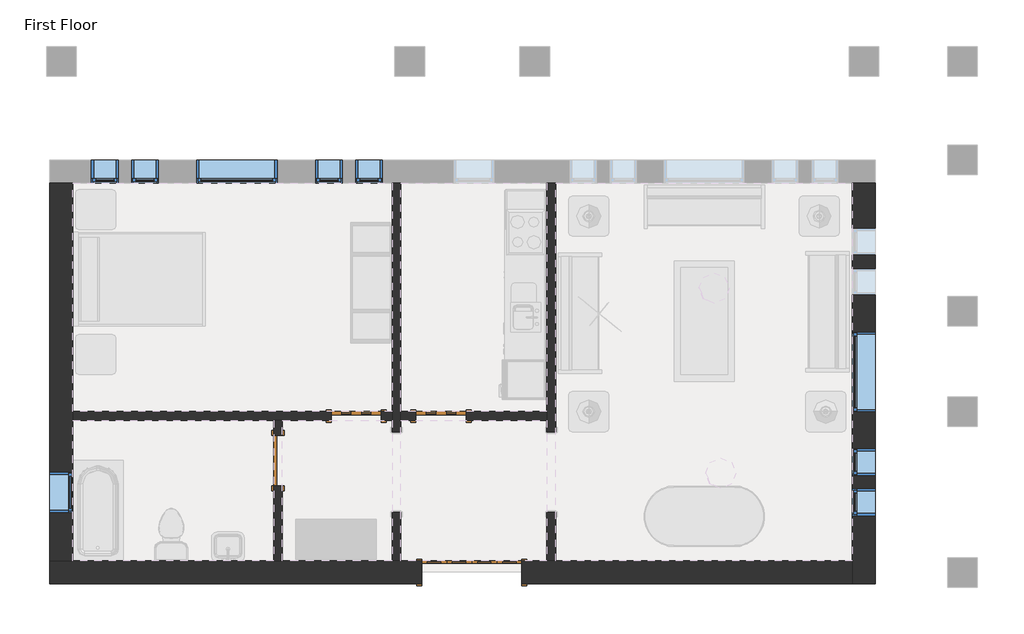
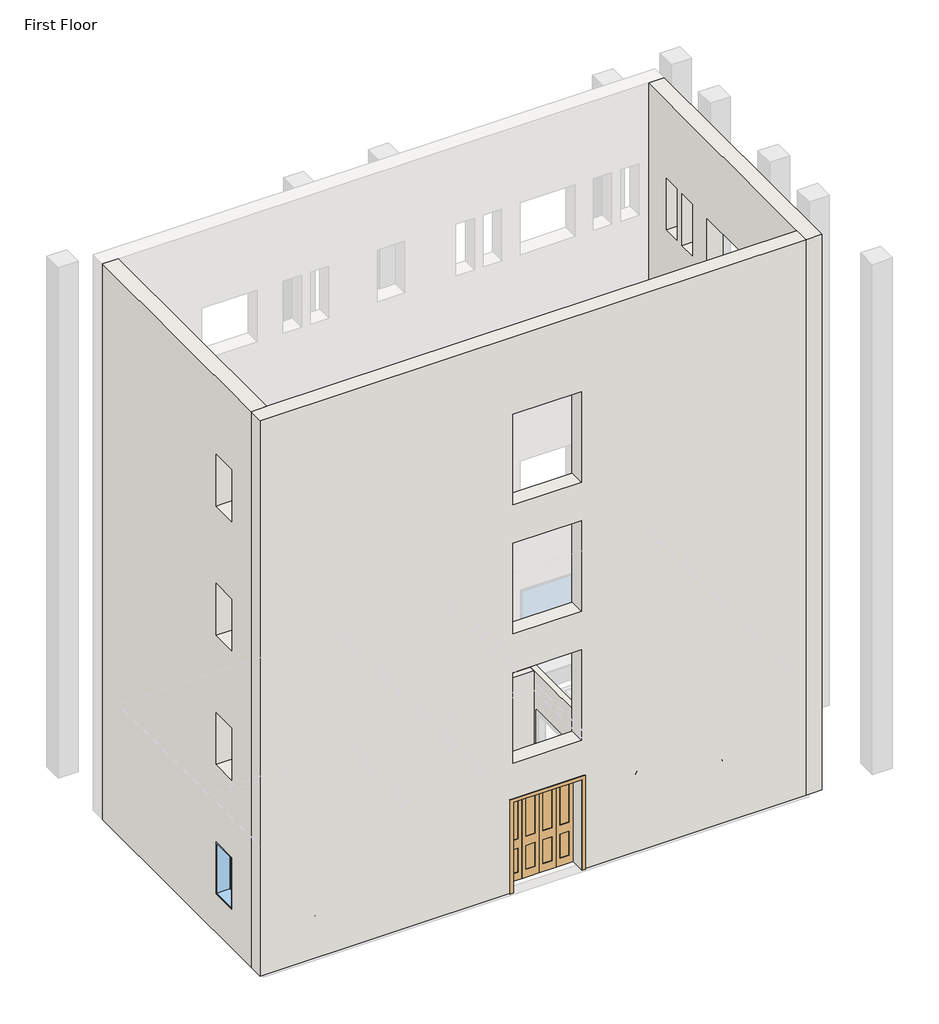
# One storey, part 1 of 3: 9 windows, 7 walls, 4 doors.
"""IFC4 building model written with IfcOpenShell, lengths in millimetres."""

import ifcopenshell
import ifcopenshell.guid

model = None  # the IFC model being written
_history = None  # IfcOwnerHistory: only IFC2X3 demands one
_inside = {}  # id of a spatial element -> (the spatial element, [elements in it])
_under = {}  # id of a project, library or spatial element -> (it, [spatial elements below it])
_declared = {}  # id of a project -> (the project, [libraries it declares])
_typed = {}  # id of a type object -> (the type object, [elements of that type])
_made_of = {}  # id of a material, layer set ... -> (it, [elements and type objects made of it])


def new_model(schema):
    """Start an empty IFC model of exactly this schema.

    Asked for "IFC4X3", IfcOpenShell would pick the latest addendum, in which some entities
    have other attributes; the version numbers below select the first issue.
    IFC2X3 requires an IfcOwnerHistory on every rooted entity: one is made here for all.
    """
    global model, _history
    if schema == "IFC4X3":
        model = ifcopenshell.file(schema_version=(4, 3, 0, 0))
    else:
        model = ifcopenshell.file(schema=schema)
    _inside.clear()
    _under.clear()
    _declared.clear()
    _typed.clear()
    _made_of.clear()
    _history = None
    if model.schema == "IFC2X3":
        org = make("IfcOrganization", Name="unknown")
        user = make(
            "IfcPersonAndOrganization",
            ThePerson=make("IfcPerson", FamilyName="unknown"),
            TheOrganization=org,
        )
        app = make(
            "IfcApplication",
            ApplicationDeveloper=org,
            Version="unknown",
            ApplicationFullName="unknown",
            ApplicationIdentifier="unknown",
        )
        _history = make(
            "IfcOwnerHistory",
            OwningUser=user,
            OwningApplication=app,
            ChangeAction="ADDED",
            CreationDate=0,
        )
    return model


def make(cls, **values):
    """One entity of the class cls with the attributes given. An attribute that is None is left unset."""
    return model.create_entity(
        cls, **{name: value for name, value in values.items() if value is not None}
    )


def rooted(cls, **values):
    """An entity with a GlobalId (a new one), such as an element, a storey or a relation."""
    return make(cls, GlobalId=ifcopenshell.guid.new(), OwnerHistory=_history, **values)


def si_unit(unit_type, name, prefix=None):
    """IfcSIUnit, for example si_unit("LENGTHUNIT", "METRE", prefix="MILLI")."""
    return make("IfcSIUnit", UnitType=unit_type, Prefix=prefix, Name=name)


def assignment(units):
    """IfcUnitAssignment: the units of a project."""
    return None if units is None else make("IfcUnitAssignment", Units=units)


def point(xyz):
    """IfcCartesianPoint."""
    return None if xyz is None else make("IfcCartesianPoint", Coordinates=xyz)


def direction(xyz):
    """IfcDirection."""
    return None if xyz is None else make("IfcDirection", DirectionRatios=xyz)


def frame(location, z_axis=None, x_axis=None):
    """IfcAxis2Placement3D, a coordinate frame: its origin and axes. An axis left out is left unset."""
    return make(
        "IfcAxis2Placement3D",
        Location=point(location),
        Axis=direction(z_axis),
        RefDirection=direction(x_axis),
    )


def frame_2d(location, x_axis=None):
    """IfcAxis2Placement2D, a coordinate frame in the plane: its origin and x axis."""
    return make(
        "IfcAxis2Placement2D", Location=point(location), RefDirection=direction(x_axis)
    )


def origin():
    """The frame at (0, 0, 0) with its axes left unset."""
    return frame((0.0, 0.0, 0.0))


def origin_with_axes():
    """The frame at (0, 0, 0) with the z axis (0, 0, 1) and the x axis (1, 0, 0) written out."""
    return frame((0.0, 0.0, 0.0), z_axis=(0.0, 0.0, 1.0), x_axis=(1.0, 0.0, 0.0))


def place(relative_to, where):
    """IfcLocalPlacement: puts the frame where relative to a parent placement (None: the world)."""
    return make(
        "IfcLocalPlacement", PlacementRelTo=relative_to, RelativePlacement=where
    )


def context(
    kind, dimensions, precision=None, world=None, true_north=None, identifier=None
):
    """IfcGeometricRepresentationContext, for example the 3D "Model" context."""
    return make(
        "IfcGeometricRepresentationContext",
        ContextIdentifier=identifier,
        ContextType=kind,
        CoordinateSpaceDimension=dimensions,
        Precision=precision,
        WorldCoordinateSystem=world,
        TrueNorth=true_north,
    )


def project(units=None, contexts=None):
    """IfcProject with its units and contexts."""
    return rooted(
        "IfcProject",
        Name="project",
        RepresentationContexts=contexts,
        UnitsInContext=assignment(units),
    )


def spatial(cls, under=None, at=None, **own):
    """A site, building, storey or space (cls), placed at a placement, below another one or the project."""
    s = rooted(cls, ObjectPlacement=at, **own)
    if under is not None:
        _under.setdefault(under.id(), (under, []))[1].append(s)
    return s


def polyline(points):
    """IfcPolyline through the points."""
    return make("IfcPolyline", Points=[point(p) for p in points])


def circle_curve(where, radius):
    """IfcCircle in the frame where."""
    return make("IfcCircle", Position=where, Radius=radius)


def trimmed(basis, trim1, trim2, sense, master):
    """IfcTrimmedCurve: the piece of a basis curve between two trims."""
    return make(
        "IfcTrimmedCurve",
        BasisCurve=basis,
        Trim1=trim1,
        Trim2=trim2,
        SenseAgreement=sense,
        MasterRepresentation=master,
    )


def segment(curve, same_sense, transition):
    """IfcCompositeCurveSegment."""
    return make(
        "IfcCompositeCurveSegment",
        Transition=transition,
        SameSense=same_sense,
        ParentCurve=curve,
    )


def composite_curve(segments, self_intersect=None):
    """IfcCompositeCurve: segments joined end to end."""
    return make("IfcCompositeCurve", Segments=segments, SelfIntersect=self_intersect)


def outline(outer, holes=None, kind="AREA"):
    """IfcArbitraryClosedProfileDef: a profile drawn as a closed curve; with holes, ...WithVoids."""
    if holes is None:
        return make("IfcArbitraryClosedProfileDef", ProfileType=kind, OuterCurve=outer)
    return make(
        "IfcArbitraryProfileDefWithVoids",
        ProfileType=kind,
        OuterCurve=outer,
        InnerCurves=holes,
    )


def extrude(swept, where, along, depth):
    """IfcExtrudedAreaSolid: the profile swept, set in the frame where, extruded along a direction by depth."""
    return make(
        "IfcExtrudedAreaSolid",
        SweptArea=swept,
        Position=where,
        ExtrudedDirection=direction(along),
        Depth=depth,
    )


def faces_of(points, faces, orient=None, outer=None):
    """IfcFace entities. A face is a list of loops; a loop is a list of indices into points, from 0.

    orient and outer hold one flag for each loop. By default every Orientation is true, the
    first loop of a face is its IfcFaceOuterBound and the others are IfcFaceBound.
    """
    made = []
    for i, loops in enumerate(faces):
        bounds = []
        for j, loop in enumerate(loops):
            is_outer = j == 0 if outer is None else outer[i][j]
            bounds.append(
                make(
                    "IfcFaceOuterBound" if is_outer else "IfcFaceBound",
                    Bound=make("IfcPolyLoop", Polygon=[points[k] for k in loop]),
                    Orientation=True if orient is None else orient[i][j],
                )
            )
        made.append(make("IfcFace", Bounds=bounds))
    return made


def faceted_brep(points, faces, orient=None, outer=None, voids=None):
    """IfcFacetedBrep: a solid bounded by flat faces; with voids (closed shells), ...WithVoids."""
    shared = [point(p) for p in points]
    hull = make("IfcClosedShell", CfsFaces=faces_of(shared, faces, orient, outer))
    if voids is None:
        return make("IfcFacetedBrep", Outer=hull)
    return make(
        "IfcFacetedBrepWithVoids",
        Outer=hull,
        Voids=[
            make(cls, CfsFaces=faces_of(shared, fs, o, b)) for cls, fs, o, b in voids
        ],
    )


def shape(context_of_items, identifier, shape_type, items):
    """IfcShapeRepresentation: the items that make up one representation, for example the "Body"."""
    return make(
        "IfcShapeRepresentation",
        ContextOfItems=context_of_items,
        RepresentationIdentifier=identifier,
        RepresentationType=shape_type,
        Items=items,
    )


def source(mapping_origin, context_of_items, identifier, shape_type, items):
    """IfcRepresentationMap: a shape defined once, which mapped items show again and again."""
    return make(
        "IfcRepresentationMap",
        MappingOrigin=mapping_origin,
        MappedRepresentation=shape(context_of_items, identifier, shape_type, items),
    )


def transform(
    local_origin,
    x_axis=None,
    y_axis=None,
    z_axis=None,
    scale=None,
    scale2=None,
    scale3=None,
    uniform=True,
):
    """IfcCartesianTransformationOperator3D, or its non-uniform kind. x_axis, y_axis, z_axis: its Axis1, 2, 3."""
    if uniform:
        return make(
            "IfcCartesianTransformationOperator3D",
            Axis1=direction(x_axis),
            Axis2=direction(y_axis),
            LocalOrigin=point(local_origin),
            Scale=scale,
            Axis3=direction(z_axis),
        )
    return make(
        "IfcCartesianTransformationOperator3DnonUniform",
        Axis1=direction(x_axis),
        Axis2=direction(y_axis),
        LocalOrigin=point(local_origin),
        Scale=scale,
        Axis3=direction(z_axis),
        Scale2=scale2,
        Scale3=scale3,
    )


def mapped(mapping_source, mapping_target):
    """IfcMappedItem: shows the shape of a source again, moved by a transform."""
    return make(
        "IfcMappedItem", MappingSource=mapping_source, MappingTarget=mapping_target
    )


def made_of(thing, what):
    """Note that an element or type object is made of a material, layer set ...; save() writes the relation."""
    if what is not None:
        _made_of.setdefault(what.id(), (what, []))[1].append(thing)
    return thing


def element(
    cls,
    number,
    at=None,
    inside=None,
    cuts=None,
    type_object=None,
    material=None,
    context=None,
    identifier="Body",
    shape_type=None,
    held_by="IfcProductDefinitionShape",
    body=None,
    shapes=None,
    **own,
):
    """One element of the class cls, such as IfcWall. Its Tag is "e" and its number.

    at: its placement. inside: the storey or other place that contains it. cuts: it is an
    opening in that element (IfcRelVoidsElement). A single representation is given by context,
    identifier, shape_type and body (its items); several are given by shapes. held_by: the class
    of the entity that holds the representations. save() writes the other relations.
    """
    e = rooted(cls, Tag="e%d" % number, ObjectPlacement=at, **own)
    if body is not None:
        shapes = [shape(context, identifier, shape_type, body)]
    if shapes is not None:
        e.Representation = make(held_by, Representations=shapes)
    if inside is not None:
        _inside.setdefault(inside.id(), (inside, []))[1].append(e)
    if cuts is not None:
        rooted(
            "IfcRelVoidsElement", RelatingBuildingElement=cuts, RelatedOpeningElement=e
        )
    if type_object is not None:
        _typed.setdefault(type_object.id(), (type_object, []))[1].append(e)
    return made_of(e, material)


def aggregate(whole, parts):
    """IfcRelAggregates: a whole, such as a stair, and the parts it consists of."""
    return rooted("IfcRelAggregates", RelatingObject=whole, RelatedObjects=parts)


def save(model, path):
    """Write the relations noted so far, then the file.

    IfcRelAggregates (storeys below a building ...), IfcRelContainedInSpatialStructure (elements
    in a storey), IfcRelDefinesByType, IfcRelAssociatesMaterial and IfcRelDeclares: one each for
    every whole, place, type object, material and project.
    """
    for whole, parts in _under.values():
        aggregate(whole, parts)
    for where, things in _inside.values():
        rooted(
            "IfcRelContainedInSpatialStructure",
            RelatedElements=things,
            RelatingStructure=where,
        )
    for kind, things in _typed.values():
        rooted("IfcRelDefinesByType", RelatedObjects=things, RelatingType=kind)
    for what, things in _made_of.values():
        rooted("IfcRelAssociatesMaterial", RelatedObjects=things, RelatingMaterial=what)
    for by, libraries in _declared.values():
        rooted("IfcRelDeclares", RelatingContext=by, RelatedDefinitions=libraries)
    model.write(path)


def m_bifold_4_panel_1525_x_2134mm_1ddae71f(model_context):
    return source(origin(), model_context, "Body", "SweptSolid", [
        extrude(outline(polyline([(470.15, 162.3), (673.6, 162.3), (673.6, 149.6), (470.15, 149.6), (470.15, 162.3)])), frame((0.0, 0.0, 965.2), z_axis=(0.0, 0.0, 1.0), x_axis=(1.0, 0.0, 0.0)), (0.0, 0.0, 1.0), 1086.25),
        extrude(outline(polyline([(470.15, 162.3), (673.6, 162.3), (673.6, 149.6), (470.15, 149.6), (470.15, 162.3)])), frame((0.0, 0.0, 184.15), z_axis=(0.0, 0.0, 1.0), x_axis=(1.0, 0.0, 0.0)), (0.0, 0.0, 1.0), 565.15),
        extrude(outline(polyline([(88.9, 162.3), (292.35, 162.3), (292.35, 149.6), (88.9, 149.6), (88.9, 162.3)])), frame((0.0, 0.0, 965.2), z_axis=(0.0, 0.0, 1.0), x_axis=(1.0, 0.0, 0.0)), (0.0, 0.0, 1.0), 1086.25),
        extrude(outline(polyline([(88.9, 162.3), (292.35, 162.3), (292.35, 149.6), (88.9, 149.6), (88.9, 162.3)])), frame((0.0, 0.0, 184.15), z_axis=(0.0, 0.0, 1.0), x_axis=(1.0, 0.0, 0.0)), (0.0, 0.0, 1.0), 565.15),
        extrude(outline(polyline([(-292.35, 162.3), (-88.9, 162.3), (-88.9, 149.6), (-292.35, 149.6), (-292.35, 162.3)])), frame((0.0, 0.0, 184.15), z_axis=(0.0, 0.0, 1.0), x_axis=(1.0, 0.0, 0.0)), (0.0, 0.0, 1.0), 565.15),
        extrude(outline(polyline([(-292.35, 162.3), (-88.9, 162.3), (-88.9, 149.6), (-292.35, 149.6), (-292.35, 162.3)])), frame((0.0, 0.0, 965.2), z_axis=(0.0, 0.0, 1.0), x_axis=(1.0, 0.0, 0.0)), (0.0, 0.0, 1.0), 1086.25),
        extrude(outline(polyline([(-673.6, 162.3), (-470.15, 162.3), (-470.15, 149.6), (-673.6, 149.6), (-673.6, 162.3)])), frame((0.0, 0.0, 965.2), z_axis=(0.0, 0.0, 1.0), x_axis=(1.0, 0.0, 0.0)), (0.0, 0.0, 1.0), 1086.25),
        extrude(outline(polyline([(-673.6, 162.3), (-470.15, 162.3), (-470.15, 149.6), (-673.6, 149.6), (-673.6, 162.3)])), frame((0.0, 0.0, 184.15), z_axis=(0.0, 0.0, 1.0), x_axis=(1.0, 0.0, 0.0)), (0.0, 0.0, 1.0), 565.15),
        extrude(outline(polyline([(0.0, 838.5), (2210.0, 838.5), (2210.0, -838.5), (0.0, -838.5), (0.0, -762.5), (2134.0, -762.5), (2134.0, 762.5), (0.0, 762.5), (0.0, 838.5)])), frame((0.0, -200.4, 0.0), z_axis=(0.0, 1.0, 0.0), x_axis=(0.0, 0.0, 1.0)), (0.0, 0.0, 1.0), 25.4),
        extrude(outline(polyline([(0.0, 838.5), (2210.0, 838.5), (2210.0, -838.5), (0.0, -838.5), (0.0, -762.5), (2134.0, -762.5), (2134.0, 762.5), (0.0, 762.5), (0.0, 838.5)])), frame((0.0, 175.0, 0.0), z_axis=(0.0, 1.0, 0.0), x_axis=(0.0, 0.0, 1.0)), (0.0, 0.0, 1.0), 25.4),
        extrude(outline(polyline([(0.0, -762.5), (0.0, -381.25), (2134.0, -381.25), (2134.0, -762.5), (0.0, -762.5)]), holes=[polyline([(2051.45, -673.6), (2051.45, -470.15), (965.2, -470.15), (965.2, -673.6), (2051.45, -673.6)]), polyline([(749.3, -673.6), (749.3, -470.15), (184.15, -470.15), (184.15, -673.6), (749.3, -673.6)])]), frame((0.0, 136.9, 0.0), z_axis=(0.0, 1.0, 0.0), x_axis=(0.0, 0.0, 1.0)), (0.0, 0.0, 1.0), 38.1),
        extrude(outline(polyline([(0.0, -381.25), (0.0, 0.0), (2134.0, 0.0), (2134.0, -381.25), (0.0, -381.25)]), holes=[polyline([(2051.45, -292.35), (2051.45, -88.9), (965.2, -88.9), (965.2, -292.35), (2051.45, -292.35)]), polyline([(749.3, -292.35), (749.3, -88.9), (184.15, -88.9), (184.15, -292.35), (749.3, -292.35)])]), frame((0.0, 136.9, 0.0), z_axis=(0.0, 1.0, 0.0), x_axis=(0.0, 0.0, 1.0)), (0.0, 0.0, 1.0), 38.1),
        extrude(outline(polyline([(0.0, 0.0), (0.0, 381.25), (2134.0, 381.25), (2134.0, 0.0), (0.0, 0.0)]), holes=[polyline([(2051.45, 88.9), (2051.45, 292.35), (965.2, 292.35), (965.2, 88.9), (2051.45, 88.9)]), polyline([(749.3, 88.9), (749.3, 292.35), (184.15, 292.35), (184.15, 88.9), (749.3, 88.9)])]), frame((0.0, 136.9, 0.0), z_axis=(0.0, 1.0, 0.0), x_axis=(0.0, 0.0, 1.0)), (0.0, 0.0, 1.0), 38.1),
        extrude(outline(polyline([(0.0, 381.25), (0.0, 762.5), (2134.0, 762.5), (2134.0, 381.25), (0.0, 381.25)]), holes=[polyline([(2051.45, 470.15), (2051.45, 673.6), (965.2, 673.6), (965.2, 470.15), (2051.45, 470.15)]), polyline([(749.3, 470.15), (749.3, 673.6), (184.15, 673.6), (184.15, 470.15), (749.3, 470.15)])]), frame((0.0, 136.9, 0.0), z_axis=(0.0, 1.0, 0.0), x_axis=(0.0, 0.0, 1.0)), (0.0, 0.0, 1.0), 38.1),
    ])


def m_single_decorative_2_0762_x_2134mm_0d0af7cb(model_context):
    return source(origin(), model_context, "Body", "SweptSolid", [
        extrude(outline(polyline([(2134.0, 381.0), (2134.0, -381.0), (0.0, -381.0), (0.0, 381.0), (2134.0, 381.0)]), holes=[polyline([(1219.3, -76.2), (254.0, -76.2), (254.0, -228.6), (1219.3, -228.6), (1219.3, -76.2)]), polyline([(1219.3, 228.6), (254.0, 228.6), (254.0, 76.2), (1219.3, 76.2), (1219.3, 228.6)]), polyline([(1371.7, -76.2), (1371.7, -228.6), (1574.9, -228.6), (1574.9, -76.2), (1371.7, -76.2)]), polyline([(1574.9, 76.2), (1574.9, 228.6), (1371.7, 228.6), (1371.7, 76.2), (1574.9, 76.2)]), composite_curve([segment(polyline([(1727.3, 228.6), (1727.3, -228.6)]), True, "CONTINUOUS"), segment(trimmed(circle_curve(frame_2d((1727.3, 0.0)), 228.6), [point((1727.3, -228.6))], [point((1727.3, 228.6))], True, "CARTESIAN"), True, "CONTINUOUS")], self_intersect=False)]), frame((0.0, -67.75, 0.0), z_axis=(0.0, 1.0, 0.0), x_axis=(0.0, 0.0, 1.0)), (0.0, 0.0, 1.0), 50.0),
        extrude(outline(polyline([(0.0, 381.0), (0.0, 457.0), (2210.0, 457.0), (2210.0, -457.0), (0.0, -457.0), (0.0, -381.0), (2134.0, -381.0), (2134.0, 381.0), (0.0, 381.0)])), frame((0.0, 67.75, 0.0), z_axis=(0.0, 1.0, 0.0), x_axis=(0.0, 0.0, 1.0)), (0.0, 0.0, 1.0), 25.0),
        extrude(outline(polyline([(2210.0, -457.0), (0.0, -457.0), (0.0, -381.0), (2134.0, -381.0), (2134.0, 381.0), (0.0, 381.0), (0.0, 457.0), (2210.0, 457.0), (2210.0, -457.0)])), frame((0.0, -92.75, 0.0), z_axis=(0.0, 1.0, 0.0), x_axis=(0.0, 0.0, 1.0)), (0.0, 0.0, 1.0), 25.0),
        extrude(outline(composite_curve([segment(trimmed(circle_curve(frame_2d((1727.3, 0.0)), 228.6), [point((1727.3, 228.6))], [point((1727.3, -228.6))], False, "CARTESIAN"), True, "CONTINUOUS"), segment(polyline([(1727.3, -228.6), (1727.3, 228.6)]), True, "CONTINUOUS")], self_intersect=False)), frame((0.0, -51.0833333, 0.0), z_axis=(0.0, 1.0, 0.0), x_axis=(0.0, 0.0, 1.0)), (0.0, 0.0, 1.0), 16.6666667),
        extrude(outline(polyline([(-228.6, -51.0833333), (-228.6, -34.4166667), (-76.2, -34.4166667), (-76.2, -51.0833333), (-228.6, -51.0833333)])), frame((0.0, 0.0, 254.0), z_axis=(0.0, 0.0, 1.0), x_axis=(1.0, 0.0, 0.0)), (0.0, 0.0, 1.0), 965.3),
        extrude(outline(polyline([(76.2, -51.0833333), (76.2, -34.4166667), (228.6, -34.4166667), (228.6, -51.0833333), (76.2, -51.0833333)])), frame((0.0, 0.0, 254.0), z_axis=(0.0, 0.0, 1.0), x_axis=(1.0, 0.0, 0.0)), (0.0, 0.0, 1.0), 965.3),
        extrude(outline(polyline([(76.2, -51.0833333), (76.2, -34.4166667), (228.6, -34.4166667), (228.6, -51.0833333), (76.2, -51.0833333)])), frame((0.0, 0.0, 1371.7), z_axis=(0.0, 0.0, 1.0), x_axis=(1.0, 0.0, 0.0)), (0.0, 0.0, 1.0), 203.2),
        extrude(outline(polyline([(-228.6, -51.0833333), (-228.6, -34.4166667), (-76.2, -34.4166667), (-76.2, -51.0833333), (-228.6, -51.0833333)])), frame((0.0, 0.0, 1371.7), z_axis=(0.0, 0.0, 1.0), x_axis=(1.0, 0.0, 0.0)), (0.0, 0.0, 1.0), 203.2),
    ])


def m_single_decorative_2_0762_x_2134mm_2fe67c8e(model_context):
    return source(origin(), model_context, "Body", "SweptSolid", [
        extrude(outline(polyline([(2134.0, 381.0), (2134.0, -381.0), (0.0, -381.0), (0.0, 381.0), (2134.0, 381.0)]), holes=[polyline([(1219.3, -76.2), (254.0, -76.2), (254.0, -228.6), (1219.3, -228.6), (1219.3, -76.2)]), polyline([(1219.3, 228.6), (254.0, 228.6), (254.0, 76.2), (1219.3, 76.2), (1219.3, 228.6)]), polyline([(1371.7, -76.2), (1371.7, -228.6), (1574.9, -228.6), (1574.9, -76.2), (1371.7, -76.2)]), polyline([(1574.9, 76.2), (1574.9, 228.6), (1371.7, 228.6), (1371.7, 76.2), (1574.9, 76.2)]), composite_curve([segment(polyline([(1727.3, 228.6), (1727.3, -228.6)]), True, "CONTINUOUS"), segment(trimmed(circle_curve(frame_2d((1727.3, 0.0)), 228.6), [point((1727.3, -228.6))], [point((1727.3, 228.6))], True, "CARTESIAN"), True, "CONTINUOUS")], self_intersect=False)]), frame((0.0, 17.75, 0.0), z_axis=(0.0, 1.0, 0.0), x_axis=(0.0, 0.0, 1.0)), (0.0, 0.0, 1.0), 50.0),
        extrude(outline(polyline([(0.0, 381.0), (0.0, 457.0), (2210.0, 457.0), (2210.0, -457.0), (0.0, -457.0), (0.0, -381.0), (2134.0, -381.0), (2134.0, 381.0), (0.0, 381.0)])), frame((0.0, -92.75, 0.0), z_axis=(0.0, 1.0, 0.0), x_axis=(0.0, 0.0, 1.0)), (0.0, 0.0, 1.0), 25.0),
        extrude(outline(polyline([(2210.0, -457.0), (0.0, -457.0), (0.0, -381.0), (2134.0, -381.0), (2134.0, 381.0), (0.0, 381.0), (0.0, 457.0), (2210.0, 457.0), (2210.0, -457.0)])), frame((0.0, 67.75, 0.0), z_axis=(0.0, 1.0, 0.0), x_axis=(0.0, 0.0, 1.0)), (0.0, 0.0, 1.0), 25.0),
        extrude(outline(composite_curve([segment(trimmed(circle_curve(frame_2d((1727.3, 0.0)), 228.6), [point((1727.3, 228.6))], [point((1727.3, -228.6))], False, "CARTESIAN"), True, "CONTINUOUS"), segment(polyline([(1727.3, -228.6), (1727.3, 228.6)]), True, "CONTINUOUS")], self_intersect=False)), frame((0.0, 34.4166667, 0.0), z_axis=(0.0, 1.0, 0.0), x_axis=(0.0, 0.0, 1.0)), (0.0, 0.0, 1.0), 16.6666667),
        extrude(outline(polyline([(-228.6, 51.0833333), (-76.2, 51.0833333), (-76.2, 34.4166667), (-228.6, 34.4166667), (-228.6, 51.0833333)])), frame((0.0, 0.0, 254.0), z_axis=(0.0, 0.0, 1.0), x_axis=(1.0, 0.0, 0.0)), (0.0, 0.0, 1.0), 965.3),
        extrude(outline(polyline([(76.2, 51.0833333), (228.6, 51.0833333), (228.6, 34.4166667), (76.2, 34.4166667), (76.2, 51.0833333)])), frame((0.0, 0.0, 254.0), z_axis=(0.0, 0.0, 1.0), x_axis=(1.0, 0.0, 0.0)), (0.0, 0.0, 1.0), 965.3),
        extrude(outline(polyline([(76.2, 51.0833333), (228.6, 51.0833333), (228.6, 34.4166667), (76.2, 34.4166667), (76.2, 51.0833333)])), frame((0.0, 0.0, 1371.7), z_axis=(0.0, 0.0, 1.0), x_axis=(1.0, 0.0, 0.0)), (0.0, 0.0, 1.0), 203.2),
        extrude(outline(polyline([(-228.6, 51.0833333), (-76.2, 51.0833333), (-76.2, 34.4166667), (-228.6, 34.4166667), (-228.6, 51.0833333)])), frame((0.0, 0.0, 1371.7), z_axis=(0.0, 0.0, 1.0), x_axis=(1.0, 0.0, 0.0)), (0.0, 0.0, 1.0), 203.2),
    ])


def m_single_flush_0762_x_2134mm_0d89e411(model_context):
    return source(origin(), model_context, "Body", "SweptSolid", [
        extrude(outline(polyline([(2210.0, -457.0), (0.0, -457.0), (0.0, -381.0), (2134.0, -381.0), (2134.0, 381.0), (0.0, 381.0), (0.0, 457.0), (2210.0, 457.0), (2210.0, -457.0)])), frame((0.0, 67.75, 0.0), z_axis=(0.0, 1.0, 0.0), x_axis=(0.0, 0.0, 1.0)), (0.0, 0.0, 1.0), 25.0),
        extrude(outline(polyline([(2210.0, 457.0), (2210.0, -457.0), (0.0, -457.0), (0.0, -381.0), (2134.0, -381.0), (2134.0, 381.0), (0.0, 381.0), (0.0, 457.0), (2210.0, 457.0)])), frame((0.0, -92.75, 0.0), z_axis=(0.0, 1.0, 0.0), x_axis=(0.0, 0.0, 1.0)), (0.0, 0.0, 1.0), 25.0),
        extrude(outline(polyline([(381.0, 16.75), (-381.0, 16.75), (-381.0, 67.75), (381.0, 67.75), (381.0, 16.75)])), origin_with_axes(), (0.0, 0.0, 1.0), 2134.0),
    ])


def m_fixed_0406_x_1220mm_57fee329(model_context):
    return source(origin(), model_context, "Body", "SweptSolid", [
        extrude(outline(polyline([(-140.0, 153.0), (140.0, 153.0), (140.0, 141.0), (-140.0, 141.0), (-140.0, 153.0)])), frame((0.0, 0.0, 978.0), z_axis=(0.0, 0.0, 1.0), x_axis=(1.0, 0.0, 0.0)), (0.0, 0.0, 1.0), 1094.0),
        extrude(outline(polyline([(2116.0, -184.0), (934.0, -184.0), (934.0, 184.0), (2116.0, 184.0), (2116.0, -184.0)]), holes=[polyline([(2072.0, -140.0), (2072.0, 140.0), (978.0, 140.0), (978.0, -140.0), (2072.0, -140.0)])]), frame((0.0, 125.0, 0.0), z_axis=(0.0, 1.0, 0.0), x_axis=(0.0, 0.0, 1.0)), (0.0, 0.0, 1.0), 44.0),
        extrude(outline(polyline([(2135.0, -203.0), (915.0, -203.0), (915.0, 203.0), (2135.0, 203.0), (2135.0, -203.0)]), holes=[polyline([(2116.0, -184.0), (2116.0, 184.0), (934.0, 184.0), (934.0, -184.0), (2116.0, -184.0)])]), frame((0.0, 125.0, 0.0), z_axis=(0.0, 1.0, 0.0), x_axis=(0.0, 0.0, 1.0)), (0.0, 0.0, 1.0), 63.0),
        extrude(outline(polyline([(2135.0, -203.0), (915.0, -203.0), (915.0, 203.0), (2135.0, 203.0), (2135.0, -203.0)]), holes=[polyline([(2103.0, -171.0), (2103.0, 171.0), (947.0, 171.0), (947.0, -171.0), (2103.0, -171.0)])]), frame((0.0, -162.0, 0.0), z_axis=(0.0, 1.0, 0.0), x_axis=(0.0, 0.0, 1.0)), (0.0, 0.0, 1.0), 287.0),
    ])


def m_fixed_0406_x_1220mm_85c28f40(model_context):
    return source(origin(), model_context, "Body", "SweptSolid", [
        extrude(outline(polyline([(-140.0, -153.0), (-140.0, -141.0), (140.0, -141.0), (140.0, -153.0), (-140.0, -153.0)])), frame((0.0, 0.0, 978.0), z_axis=(0.0, 0.0, 1.0), x_axis=(1.0, 0.0, 0.0)), (0.0, 0.0, 1.0), 1094.0),
        extrude(outline(polyline([(2116.0, -184.0), (934.0, -184.0), (934.0, 184.0), (2116.0, 184.0), (2116.0, -184.0)]), holes=[polyline([(2072.0, -140.0), (2072.0, 140.0), (978.0, 140.0), (978.0, -140.0), (2072.0, -140.0)])]), frame((0.0, -169.0, 0.0), z_axis=(0.0, 1.0, 0.0), x_axis=(0.0, 0.0, 1.0)), (0.0, 0.0, 1.0), 44.0),
        extrude(outline(polyline([(2135.0, -203.0), (915.0, -203.0), (915.0, 203.0), (2135.0, 203.0), (2135.0, -203.0)]), holes=[polyline([(2116.0, -184.0), (2116.0, 184.0), (934.0, 184.0), (934.0, -184.0), (2116.0, -184.0)])]), frame((0.0, -188.0, 0.0), z_axis=(0.0, 1.0, 0.0), x_axis=(0.0, 0.0, 1.0)), (0.0, 0.0, 1.0), 63.0),
        extrude(outline(polyline([(2135.0, -203.0), (915.0, -203.0), (915.0, 203.0), (2135.0, 203.0), (2135.0, -203.0)]), holes=[polyline([(2103.0, -171.0), (2103.0, 171.0), (947.0, 171.0), (947.0, -171.0), (2103.0, -171.0)])]), frame((0.0, -125.0, 0.0), z_axis=(0.0, 1.0, 0.0), x_axis=(0.0, 0.0, 1.0)), (0.0, 0.0, 1.0), 287.0),
    ])


def m_fixed_0610_x_1220mm_2c28ef1d(model_context):
    return source(origin(), model_context, "Body", "SweptSolid", [
        extrude(outline(polyline([(-242.0, 153.0), (242.0, 153.0), (242.0, 141.0), (-242.0, 141.0), (-242.0, 153.0)])), frame((0.0, 0.0, 978.0), z_axis=(0.0, 0.0, 1.0), x_axis=(1.0, 0.0, 0.0)), (0.0, 0.0, 1.0), 1094.0),
        extrude(outline(polyline([(2116.0, -286.0), (934.0, -286.0), (934.0, 286.0), (2116.0, 286.0), (2116.0, -286.0)]), holes=[polyline([(2072.0, -242.0), (2072.0, 242.0), (978.0, 242.0), (978.0, -242.0), (2072.0, -242.0)])]), frame((0.0, 125.0, 0.0), z_axis=(0.0, 1.0, 0.0), x_axis=(0.0, 0.0, 1.0)), (0.0, 0.0, 1.0), 44.0),
        extrude(outline(polyline([(2135.0, -305.0), (915.0, -305.0), (915.0, 305.0), (2135.0, 305.0), (2135.0, -305.0)]), holes=[polyline([(2116.0, -286.0), (2116.0, 286.0), (934.0, 286.0), (934.0, -286.0), (2116.0, -286.0)])]), frame((0.0, 125.0, 0.0), z_axis=(0.0, 1.0, 0.0), x_axis=(0.0, 0.0, 1.0)), (0.0, 0.0, 1.0), 63.0),
        extrude(outline(polyline([(2135.0, -305.0), (915.0, -305.0), (915.0, 305.0), (2135.0, 305.0), (2135.0, -305.0)]), holes=[polyline([(2103.0, -273.0), (2103.0, 273.0), (947.0, 273.0), (947.0, -273.0), (2103.0, -273.0)])]), frame((0.0, -162.0, 0.0), z_axis=(0.0, 1.0, 0.0), x_axis=(0.0, 0.0, 1.0)), (0.0, 0.0, 1.0), 287.0),
    ])


def m_fixed_1220_x_1220mm_e08ff7af(model_context):
    return source(origin(), model_context, "Body", "SweptSolid", [
        extrude(outline(polyline([(-547.0, 153.0), (547.0, 153.0), (547.0, 141.0), (-547.0, 141.0), (-547.0, 153.0)])), frame((0.0, 0.0, 978.0), z_axis=(0.0, 0.0, 1.0), x_axis=(1.0, 0.0, 0.0)), (0.0, 0.0, 1.0), 1094.0),
        extrude(outline(polyline([(2116.0, -591.0), (934.0, -591.0), (934.0, 591.0), (2116.0, 591.0), (2116.0, -591.0)]), holes=[polyline([(2072.0, -547.0), (2072.0, 547.0), (978.0, 547.0), (978.0, -547.0), (2072.0, -547.0)])]), frame((0.0, 125.0, 0.0), z_axis=(0.0, 1.0, 0.0), x_axis=(0.0, 0.0, 1.0)), (0.0, 0.0, 1.0), 44.0),
        extrude(outline(polyline([(2135.0, -610.0), (915.0, -610.0), (915.0, 610.0), (2135.0, 610.0), (2135.0, -610.0)]), holes=[polyline([(2116.0, -591.0), (2116.0, 591.0), (934.0, 591.0), (934.0, -591.0), (2116.0, -591.0)])]), frame((0.0, 125.0, 0.0), z_axis=(0.0, 1.0, 0.0), x_axis=(0.0, 0.0, 1.0)), (0.0, 0.0, 1.0), 63.0),
        extrude(outline(polyline([(2135.0, -610.0), (915.0, -610.0), (915.0, 610.0), (2135.0, 610.0), (2135.0, -610.0)]), holes=[polyline([(2103.0, -578.0), (2103.0, 578.0), (947.0, 578.0), (947.0, -578.0), (2103.0, -578.0)])]), frame((0.0, -162.0, 0.0), z_axis=(0.0, 1.0, 0.0), x_axis=(0.0, 0.0, 1.0)), (0.0, 0.0, 1.0), 287.0),
    ])


model = new_model("IFC4")

# Units and contexts
model_context = context("Model", 3, world=origin())
ifc_project = project(units=[si_unit("LENGTHUNIT", "METRE", prefix="MILLI")], contexts=[model_context])

# Site, building, storey
site = spatial("IfcSite", under=ifc_project)
building = spatial("IfcBuilding", under=site)
storey = spatial("IfcBuildingStorey", under=building, Name="First Floor", Elevation=0.0)

# Doors
placement = place(None, origin())
m_bifold_4_panel_1525_x_2134mm_shape = m_bifold_4_panel_1525_x_2134mm_1ddae71f(model_context)
element("IfcDoor", 1, ObjectType="M_Bifold-4 Panel : 1525 x 2134mm", at=placement, inside=storey, context=model_context, shape_type="MappedRepresentation", body=[
    mapped(m_bifold_4_panel_1525_x_2134mm_shape, transform((-8876.0916203, -3514.8811614, 0.0), x_axis=(1.0, 0.0, 0.0), y_axis=(0.0, 1.0, 0.0), z_axis=(0.0, 0.0, 1.0))),
])
m_single_decorative_2_0762_x_2134mm_shape = m_single_decorative_2_0762_x_2134mm_0d0af7cb(model_context)
element("IfcDoor", 2, ObjectType="M_Single-Decorative 2 : 0762 x 2134mm", at=placement, inside=storey, context=model_context, shape_type="MappedRepresentation", body=[
    mapped(m_single_decorative_2_0762_x_2134mm_shape, transform((-9342.3416203, -1138.1311614, 0.0), x_axis=(-1.0, 0.0, 0.0), y_axis=(0.0, -1.0, 0.0), z_axis=(0.0, 0.0, 1.0))),
])
m_single_decorative_2_0762_x_2134mm_2_shape = m_single_decorative_2_0762_x_2134mm_2fe67c8e(model_context)
element("IfcDoor", 3, ObjectType="M_Single-Decorative 2 : 0762 x 2134mm", at=placement, inside=storey, context=model_context, shape_type="MappedRepresentation", body=[
    mapped(m_single_decorative_2_0762_x_2134mm_2_shape, transform((-10629.0916203, -1138.1311614, 0.0), x_axis=(1.0, 0.0, 0.0), y_axis=(0.0, 1.0, 0.0), z_axis=(0.0, 0.0, 1.0))),
])
m_single_flush_0762_x_2134mm_shape = m_single_flush_0762_x_2134mm_0d89e411(model_context)
element("IfcDoor", 4, ObjectType="M_Single-Flush : 0762 x 2134mm", at=placement, inside=storey, context=model_context, shape_type="MappedRepresentation", body=[
    mapped(m_single_flush_0762_x_2134mm_shape, transform((-11819.5916203, -1815.8811614, 0.0), x_axis=(0.0, 1.0, 0.0), y_axis=(-1.0, 0.0, 0.0), z_axis=(0.0, 0.0, 1.0))),
])

# Walls
element("IfcWall", 5, ObjectType="Exterior - Brick on Mtl. Stud", at=placement, inside=storey, context=model_context, shape_type="Brep", body=[
    faceted_brep([(-3093.3416203, 2406.1188386, 0.0), (-3093.3416203, -3339.8811614, 0.0), (-3093.3416203, -3504.8811614, 0.0), (-3093.3416203, -3689.8811614, 0.0), (-3093.3416203, -3689.8811614, 13107.0), (-3093.3416203, -3339.8811614, 13107.0), (-3093.3416203, 2406.1188386, 13107.0), (-3093.3416203, -1076.8811614, 915.0), (-3093.3416203, 143.1188386, 915.0), (-3093.3416203, 143.1188386, 2135.0), (-3093.3416203, -1076.8811614, 2135.0), (-3093.3416203, 701.1188386, 915.0), (-3093.3416203, 1107.1188386, 915.0), (-3093.3416203, 1107.1188386, 2135.0), (-3093.3416203, 701.1188386, 2135.0), (-3093.3416203, 1311.1188386, 915.0), (-3093.3416203, 1717.1188386, 915.0), (-3093.3416203, 1717.1188386, 2135.0), (-3093.3416203, 1311.1188386, 2135.0), (-3093.3416203, -1634.8811614, 915.0), (-3093.3416203, -1634.8811614, 2135.0), (-3093.3416203, -2040.8811614, 2135.0), (-3093.3416203, -2040.8811614, 915.0), (-3093.3416203, -2244.8811614, 915.0), (-3093.3416203, -2244.8811614, 2135.0), (-3093.3416203, -2650.8811614, 2135.0), (-3093.3416203, -2650.8811614, 915.0), (-3093.3416203, -1634.8811614, 10059.0), (-3093.3416203, -1634.8811614, 11279.0), (-3093.3416203, -2040.8811614, 11279.0), (-3093.3416203, -2040.8811614, 10059.0), (-3093.3416203, -2244.8811614, 10059.0), (-3093.3416203, -2244.8811614, 11279.0), (-3093.3416203, -2650.8811614, 11279.0), (-3093.3416203, -2650.8811614, 10059.0), (-3093.3416203, 701.1188386, 10059.0), (-3093.3416203, 1107.1188386, 10059.0), (-3093.3416203, 1107.1188386, 11279.0), (-3093.3416203, 701.1188386, 11279.0), (-3093.3416203, 1311.1188386, 10059.0), (-3093.3416203, 1717.1188386, 10059.0), (-3093.3416203, 1717.1188386, 11279.0), (-3093.3416203, 1311.1188386, 11279.0), (-3093.3416203, -1076.8811614, 10059.0), (-3093.3416203, 143.1188386, 10059.0), (-3093.3416203, 143.1188386, 11279.0), (-3093.3416203, -1076.8811614, 11279.0), (-3093.3416203, -1634.8811614, 3963.0), (-3093.3416203, -1634.8811614, 5183.0), (-3093.3416203, -2040.8811614, 5183.0), (-3093.3416203, -2040.8811614, 3963.0), (-3093.3416203, -2244.8811614, 3963.0), (-3093.3416203, -2244.8811614, 5183.0), (-3093.3416203, -2650.8811614, 5183.0), (-3093.3416203, -2650.8811614, 3963.0), (-3093.3416203, 701.1188386, 3963.0), (-3093.3416203, 1107.1188386, 3963.0), (-3093.3416203, 1107.1188386, 5183.0), (-3093.3416203, 701.1188386, 5183.0), (-3093.3416203, 1311.1188386, 3963.0), (-3093.3416203, 1717.1188386, 3963.0), (-3093.3416203, 1717.1188386, 5183.0), (-3093.3416203, 1311.1188386, 5183.0), (-3093.3416203, -1076.8811614, 3963.0), (-3093.3416203, 143.1188386, 3963.0), (-3093.3416203, 143.1188386, 5183.0), (-3093.3416203, -1076.8811614, 5183.0), (-3093.3416203, -1634.8811614, 7011.0), (-3093.3416203, -1634.8811614, 8231.0), (-3093.3416203, -2040.8811614, 8231.0), (-3093.3416203, -2040.8811614, 7011.0), (-3093.3416203, -2244.8811614, 7011.0), (-3093.3416203, -2244.8811614, 8231.0), (-3093.3416203, -2650.8811614, 8231.0), (-3093.3416203, -2650.8811614, 7011.0), (-3093.3416203, 701.1188386, 7011.0), (-3093.3416203, 1107.1188386, 7011.0), (-3093.3416203, 1107.1188386, 8231.0), (-3093.3416203, 701.1188386, 8231.0), (-3093.3416203, 1311.1188386, 7011.0), (-3093.3416203, 1717.1188386, 7011.0), (-3093.3416203, 1717.1188386, 8231.0), (-3093.3416203, 1311.1188386, 8231.0), (-3093.3416203, -1076.8811614, 7011.0), (-3093.3416203, 143.1188386, 7011.0), (-3093.3416203, 143.1188386, 8231.0), (-3093.3416203, -1076.8811614, 8231.0), (-2743.3416203, 2406.1188386, 0.0), (-2743.3416203, 2406.1188386, 13107.0), (-2743.3416203, -3689.8811614, 13107.0), (-2743.3416203, -3689.8811614, 0.0), (-2743.3416203, -3504.8811614, 0.0), (-2743.3416203, -1076.8811614, 915.0), (-2743.3416203, -1076.8811614, 2135.0), (-2743.3416203, 143.1188386, 2135.0), (-2743.3416203, 143.1188386, 915.0), (-2743.3416203, 701.1188386, 915.0), (-2743.3416203, 701.1188386, 2135.0), (-2743.3416203, 1107.1188386, 2135.0), (-2743.3416203, 1107.1188386, 915.0), (-2743.3416203, 1311.1188386, 915.0), (-2743.3416203, 1311.1188386, 2135.0), (-2743.3416203, 1717.1188386, 2135.0), (-2743.3416203, 1717.1188386, 915.0), (-2743.3416203, -1634.8811614, 915.0), (-2743.3416203, -2040.8811614, 915.0), (-2743.3416203, -2040.8811614, 2135.0), (-2743.3416203, -1634.8811614, 2135.0), (-2743.3416203, -2244.8811614, 915.0), (-2743.3416203, -2650.8811614, 915.0), (-2743.3416203, -2650.8811614, 2135.0), (-2743.3416203, -2244.8811614, 2135.0), (-2743.3416203, -1634.8811614, 10059.0), (-2743.3416203, -2040.8811614, 10059.0), (-2743.3416203, -2040.8811614, 11279.0), (-2743.3416203, -1634.8811614, 11279.0), (-2743.3416203, -2244.8811614, 10059.0), (-2743.3416203, -2650.8811614, 10059.0), (-2743.3416203, -2650.8811614, 11279.0), (-2743.3416203, -2244.8811614, 11279.0), (-2743.3416203, 701.1188386, 10059.0), (-2743.3416203, 701.1188386, 11279.0), (-2743.3416203, 1107.1188386, 11279.0), (-2743.3416203, 1107.1188386, 10059.0), (-2743.3416203, 1311.1188386, 10059.0), (-2743.3416203, 1311.1188386, 11279.0), (-2743.3416203, 1717.1188386, 11279.0), (-2743.3416203, 1717.1188386, 10059.0), (-2743.3416203, -1076.8811614, 10059.0), (-2743.3416203, -1076.8811614, 11279.0), (-2743.3416203, 143.1188386, 11279.0), (-2743.3416203, 143.1188386, 10059.0), (-2743.3416203, -1634.8811614, 3963.0), (-2743.3416203, -2040.8811614, 3963.0), (-2743.3416203, -2040.8811614, 5183.0), (-2743.3416203, -1634.8811614, 5183.0), (-2743.3416203, -2244.8811614, 3963.0), (-2743.3416203, -2650.8811614, 3963.0), (-2743.3416203, -2650.8811614, 5183.0), (-2743.3416203, -2244.8811614, 5183.0), (-2743.3416203, 701.1188386, 3963.0), (-2743.3416203, 701.1188386, 5183.0), (-2743.3416203, 1107.1188386, 5183.0), (-2743.3416203, 1107.1188386, 3963.0), (-2743.3416203, 1311.1188386, 3963.0), (-2743.3416203, 1311.1188386, 5183.0), (-2743.3416203, 1717.1188386, 5183.0), (-2743.3416203, 1717.1188386, 3963.0), (-2743.3416203, -1076.8811614, 3963.0), (-2743.3416203, -1076.8811614, 5183.0), (-2743.3416203, 143.1188386, 5183.0), (-2743.3416203, 143.1188386, 3963.0), (-2743.3416203, -1634.8811614, 7011.0), (-2743.3416203, -2040.8811614, 7011.0), (-2743.3416203, -2040.8811614, 8231.0), (-2743.3416203, -1634.8811614, 8231.0), (-2743.3416203, -2244.8811614, 7011.0), (-2743.3416203, -2650.8811614, 7011.0), (-2743.3416203, -2650.8811614, 8231.0), (-2743.3416203, -2244.8811614, 8231.0), (-2743.3416203, 701.1188386, 7011.0), (-2743.3416203, 701.1188386, 8231.0), (-2743.3416203, 1107.1188386, 8231.0), (-2743.3416203, 1107.1188386, 7011.0), (-2743.3416203, 1311.1188386, 7011.0), (-2743.3416203, 1311.1188386, 8231.0), (-2743.3416203, 1717.1188386, 8231.0), (-2743.3416203, 1717.1188386, 7011.0), (-2743.3416203, -1076.8811614, 7011.0), (-2743.3416203, -1076.8811614, 8231.0), (-2743.3416203, 143.1188386, 8231.0), (-2743.3416203, 143.1188386, 7011.0), (-2928.3416203, 2406.1188386, 0.0), (-2928.3416203, -3689.8811614, 0.0), (-2928.3416203, -3504.8811614, 0.0)], [[[0, 1, 2, 3, 4, 5, 6], [7, 8, 9, 10], [11, 12, 13, 14], [15, 16, 17, 18], [19, 20, 21, 22], [23, 24, 25, 26], [27, 28, 29, 30], [31, 32, 33, 34], [35, 36, 37, 38], [39, 40, 41, 42], [43, 44, 45, 46], [47, 48, 49, 50], [51, 52, 53, 54], [55, 56, 57, 58], [59, 60, 61, 62], [63, 64, 65, 66], [67, 68, 69, 70], [71, 72, 73, 74], [75, 76, 77, 78], [79, 80, 81, 82], [83, 84, 85, 86]], [[87, 88, 89, 90, 91], [92, 93, 94, 95], [96, 97, 98, 99], [100, 101, 102, 103], [104, 105, 106, 107], [108, 109, 110, 111], [112, 113, 114, 115], [116, 117, 118, 119], [120, 121, 122, 123], [124, 125, 126, 127], [128, 129, 130, 131], [132, 133, 134, 135], [136, 137, 138, 139], [140, 141, 142, 143], [144, 145, 146, 147], [148, 149, 150, 151], [152, 153, 154, 155], [156, 157, 158, 159], [160, 161, 162, 163], [164, 165, 166, 167], [168, 169, 170, 171]], [[6, 5, 4, 89, 88]], [[0, 6, 88, 87, 172]], [[4, 3, 173, 90, 89]], [[93, 92, 7, 10]], [[94, 93, 10, 9]], [[95, 94, 9, 8]], [[92, 95, 8, 7]], [[97, 96, 11, 14]], [[98, 97, 14, 13]], [[99, 98, 13, 12]], [[96, 99, 12, 11]], [[101, 100, 15, 18]], [[102, 101, 18, 17]], [[103, 102, 17, 16]], [[100, 103, 16, 15]], [[20, 19, 104, 107]], [[21, 20, 107, 106]], [[22, 21, 106, 105]], [[19, 22, 105, 104]], [[24, 23, 108, 111]], [[25, 24, 111, 110]], [[26, 25, 110, 109]], [[23, 26, 109, 108]], [[172, 87, 91, 174]], [[3, 2, 174, 173]], [[174, 91, 90, 173]], [[2, 1, 0, 172, 174]], [[28, 27, 112, 115]], [[29, 28, 115, 114]], [[30, 29, 114, 113]], [[27, 30, 113, 112]], [[32, 31, 116, 119]], [[33, 32, 119, 118]], [[34, 33, 118, 117]], [[31, 34, 117, 116]], [[121, 120, 35, 38]], [[122, 121, 38, 37]], [[123, 122, 37, 36]], [[120, 123, 36, 35]], [[125, 124, 39, 42]], [[126, 125, 42, 41]], [[127, 126, 41, 40]], [[124, 127, 40, 39]], [[129, 128, 43, 46]], [[130, 129, 46, 45]], [[131, 130, 45, 44]], [[128, 131, 44, 43]], [[48, 47, 132, 135]], [[49, 48, 135, 134]], [[50, 49, 134, 133]], [[47, 50, 133, 132]], [[52, 51, 136, 139]], [[53, 52, 139, 138]], [[54, 53, 138, 137]], [[51, 54, 137, 136]], [[141, 140, 55, 58]], [[142, 141, 58, 57]], [[143, 142, 57, 56]], [[140, 143, 56, 55]], [[145, 144, 59, 62]], [[146, 145, 62, 61]], [[147, 146, 61, 60]], [[144, 147, 60, 59]], [[149, 148, 63, 66]], [[150, 149, 66, 65]], [[151, 150, 65, 64]], [[148, 151, 64, 63]], [[68, 67, 152, 155]], [[69, 68, 155, 154]], [[70, 69, 154, 153]], [[67, 70, 153, 152]], [[72, 71, 156, 159]], [[73, 72, 159, 158]], [[74, 73, 158, 157]], [[71, 74, 157, 156]], [[161, 160, 75, 78]], [[162, 161, 78, 77]], [[163, 162, 77, 76]], [[160, 163, 76, 75]], [[165, 164, 79, 82]], [[166, 165, 82, 81]], [[167, 166, 81, 80]], [[164, 167, 80, 79]], [[169, 168, 83, 86]], [[170, 169, 86, 85]], [[171, 170, 85, 84]], [[168, 171, 84, 83]]]),
])
element("IfcWall", 6, ObjectType="Exterior - Brick on Mtl. Stud", at=placement, inside=storey, context=model_context, shape_type="Brep", body=[
    faceted_brep([(-15285.3416203, -3339.8811614, 13107.0), (-14935.3416203, -3339.8811614, 13107.0), (-3093.3416203, -3339.8811614, 13107.0), (-3093.3416203, -3339.8811614, 0.0), (-7597.5916203, -3339.8811614, 0.0), (-7733.0916203, -3339.8811614, 0.0), (-8113.5916203, -3339.8811614, 0.0), (-8113.5916203, -3339.8811614, 2134.0), (-9638.5916203, -3339.8811614, 2134.0), (-9638.5916203, -3339.8811614, 0.0), (-9951.3416203, -3339.8811614, 0.0), (-10086.8416203, -3339.8811614, 0.0), (-11751.8416203, -3339.8811614, 0.0), (-11887.3416203, -3339.8811614, 0.0), (-14935.3416203, -3339.8811614, 0.0), (-15285.3416203, -3339.8811614, 0.0), (-8113.5916203, -3339.8811614, 9144.0), (-8113.5916203, -3339.8811614, 11278.0), (-9638.5916203, -3339.8811614, 11278.0), (-9638.5916203, -3339.8811614, 9144.0), (-8113.5916203, -3339.8811614, 3048.0), (-8113.5916203, -3339.8811614, 5182.0), (-9638.5916203, -3339.8811614, 5182.0), (-9638.5916203, -3339.8811614, 3048.0), (-8113.5916203, -3339.8811614, 6096.0), (-8113.5916203, -3339.8811614, 8230.0), (-9638.5916203, -3339.8811614, 8230.0), (-9638.5916203, -3339.8811614, 6096.0), (-3093.3416203, -3689.8811614, 13107.0), (-15285.3416203, -3689.8811614, 13107.0), (-15285.3416203, -3689.8811614, 0.0), (-9638.5916203, -3689.8811614, 0.0), (-9638.5916203, -3689.8811614, 2134.0), (-8113.5916203, -3689.8811614, 2134.0), (-8113.5916203, -3689.8811614, 0.0), (-3093.3416203, -3689.8811614, 0.0), (-8113.5916203, -3689.8811614, 9144.0), (-9638.5916203, -3689.8811614, 9144.0), (-9638.5916203, -3689.8811614, 11278.0), (-8113.5916203, -3689.8811614, 11278.0), (-8113.5916203, -3689.8811614, 3048.0), (-9638.5916203, -3689.8811614, 3048.0), (-9638.5916203, -3689.8811614, 5182.0), (-8113.5916203, -3689.8811614, 5182.0), (-8113.5916203, -3689.8811614, 6096.0), (-9638.5916203, -3689.8811614, 6096.0), (-9638.5916203, -3689.8811614, 8230.0), (-8113.5916203, -3689.8811614, 8230.0)], [[[0, 1, 2, 3, 4, 5, 6, 7, 8, 9, 10, 11, 12, 13, 14, 15], [16, 17, 18, 19], [20, 21, 22, 23], [24, 25, 26, 27]], [[28, 29, 30, 31, 32, 33, 34, 35], [36, 37, 38, 39], [40, 41, 42, 43], [44, 45, 46, 47]], [[3, 35, 34, 6, 5, 4]], [[30, 15, 14, 13, 12, 11, 10, 9, 31]], [[2, 1, 0, 29, 28]], [[3, 2, 28, 35]], [[0, 15, 30, 29]], [[33, 7, 6, 34]], [[7, 33, 32, 8]], [[8, 32, 31, 9]], [[17, 16, 36, 39]], [[18, 17, 39, 38]], [[19, 18, 38, 37]], [[16, 19, 37, 36]], [[21, 20, 40, 43]], [[22, 21, 43, 42]], [[23, 22, 42, 41]], [[20, 23, 41, 40]], [[25, 24, 44, 47]], [[26, 25, 47, 46]], [[27, 26, 46, 45]], [[24, 27, 45, 44]]]),
])
element("IfcWall", 7, ObjectType="Exterior - Brick on Mtl. Stud", at=placement, inside=storey, context=model_context, shape_type="Brep", body=[
    faceted_brep([(-14935.3416203, -3339.8811614, 0.0), (-14935.3416203, -1205.8811614, 0.0), (-14935.3416203, -1070.3811614, 0.0), (-14935.3416203, 2406.1188386, 0.0), (-14935.3416203, 2406.1188386, 13107.0), (-14935.3416203, -3339.8811614, 13107.0), (-14935.3416203, -1989.8811614, 915.0), (-14935.3416203, -2599.8811614, 915.0), (-14935.3416203, -2599.8811614, 2135.0), (-14935.3416203, -1989.8811614, 2135.0), (-14935.3416203, -1989.8811614, 10059.0), (-14935.3416203, -2599.8811614, 10059.0), (-14935.3416203, -2599.8811614, 11279.0), (-14935.3416203, -1989.8811614, 11279.0), (-14935.3416203, -1989.8811614, 3963.0), (-14935.3416203, -2599.8811614, 3963.0), (-14935.3416203, -2599.8811614, 5183.0), (-14935.3416203, -1989.8811614, 5183.0), (-14935.3416203, -1989.8811614, 7011.0), (-14935.3416203, -2599.8811614, 7011.0), (-14935.3416203, -2599.8811614, 8231.0), (-14935.3416203, -1989.8811614, 8231.0), (-15285.3416203, -3339.8811614, 0.0), (-15285.3416203, -3339.8811614, 13107.0), (-15285.3416203, 2406.1188386, 13107.0), (-15285.3416203, 2406.1188386, 0.0), (-15285.3416203, -1989.8811614, 915.0), (-15285.3416203, -1989.8811614, 2135.0), (-15285.3416203, -2599.8811614, 2135.0), (-15285.3416203, -2599.8811614, 915.0), (-15285.3416203, -1989.8811614, 10059.0), (-15285.3416203, -1989.8811614, 11279.0), (-15285.3416203, -2599.8811614, 11279.0), (-15285.3416203, -2599.8811614, 10059.0), (-15285.3416203, -1989.8811614, 3963.0), (-15285.3416203, -1989.8811614, 5183.0), (-15285.3416203, -2599.8811614, 5183.0), (-15285.3416203, -2599.8811614, 3963.0), (-15285.3416203, -1989.8811614, 7011.0), (-15285.3416203, -1989.8811614, 8231.0), (-15285.3416203, -2599.8811614, 8231.0), (-15285.3416203, -2599.8811614, 7011.0), (-15100.3416203, -3339.8811614, 0.0), (-15100.3416203, 2406.1188386, 0.0)], [[[0, 1, 2, 3, 4, 5], [6, 7, 8, 9], [10, 11, 12, 13], [14, 15, 16, 17], [18, 19, 20, 21]], [[22, 23, 24, 25], [26, 27, 28, 29], [30, 31, 32, 33], [34, 35, 36, 37], [38, 39, 40, 41]], [[5, 4, 24, 23]], [[0, 5, 23, 22, 42]], [[4, 3, 43, 25, 24]], [[27, 26, 6, 9]], [[28, 27, 9, 8]], [[29, 28, 8, 7]], [[26, 29, 7, 6]], [[42, 22, 25, 43]], [[3, 2, 1, 0, 42, 43]], [[31, 30, 10, 13]], [[32, 31, 13, 12]], [[33, 32, 12, 11]], [[30, 33, 11, 10]], [[35, 34, 14, 17]], [[36, 35, 17, 16]], [[37, 36, 16, 15]], [[34, 37, 15, 14]], [[39, 38, 18, 21]], [[40, 39, 21, 20]], [[41, 40, 20, 19]], [[38, 41, 19, 18]]]),
])
element("IfcWall", 8, ObjectType="Interior - 135mm Partition (2-hr)", at=placement, inside=storey, context=model_context, shape_type="Brep", body=[
    faceted_brep([(-7733.0916203, 2406.1188386, 0.0), (-7733.0916203, -1070.3811614, 0.0), (-7733.0916203, -1205.8811614, 0.0), (-7733.0916203, -1380.8811614, 0.0), (-7733.0916203, -1380.8811614, 2134.0), (-7733.0916203, -2600.8811614, 2134.0), (-7733.0916203, -2600.8811614, 0.0), (-7733.0916203, -3339.8811614, 0.0), (-7733.0916203, -3339.8811614, 3048.0), (-7733.0916203, -1205.8811614, 3048.0), (-7733.0916203, -1070.3811614, 3048.0), (-7733.0916203, 2406.1188386, 3048.0), (-7597.5916203, -1380.8811614, 2134.0), (-7597.5916203, -1380.8811614, 0.0), (-7597.5916203, 2406.1188386, 0.0), (-7597.5916203, 2406.1188386, 3048.0), (-7597.5916203, -3339.8811614, 3048.0), (-7597.5916203, -3339.8811614, 0.0), (-7597.5916203, -2600.8811614, 0.0), (-7597.5916203, -2600.8811614, 2134.0)], [[[0, 1, 2, 3, 4, 5, 6, 7, 8, 9, 10, 11]], [[12, 13, 14, 15, 16, 17, 18, 19]], [[18, 17, 7, 6]], [[14, 13, 3, 2, 1, 0]], [[11, 10, 9, 8, 16, 15]], [[0, 11, 15, 14]], [[8, 7, 17, 16]], [[6, 5, 19, 18]], [[4, 3, 13, 12]], [[5, 4, 12, 19]]]),
])
element("IfcWall", 9, ObjectType="Interior - 135mm Partition (2-hr)", at=placement, inside=storey, context=model_context, shape_type="Brep", body=[
    faceted_brep([(-10086.8416203, -2600.8811614, 2134.0), (-10086.8416203, -2600.8811614, 0.0), (-10086.8416203, -3339.8811614, 0.0), (-10086.8416203, -3339.8811614, 3048.0), (-10086.8416203, -1205.8811614, 3048.0), (-10086.8416203, -1070.3811614, 3048.0), (-10086.8416203, 2406.1188386, 3048.0), (-10086.8416203, 2406.1188386, 0.0), (-10086.8416203, -1070.3811614, 0.0), (-10086.8416203, -1205.8811614, 0.0), (-10086.8416203, -1380.8811614, 0.0), (-10086.8416203, -1380.8811614, 2134.0), (-9951.3416203, -3339.8811614, 0.0), (-9951.3416203, -2600.8811614, 0.0), (-9951.3416203, -2600.8811614, 2134.0), (-9951.3416203, -1380.8811614, 2134.0), (-9951.3416203, -1380.8811614, 0.0), (-9951.3416203, -1205.8811614, 0.0), (-9951.3416203, -1070.3811614, 0.0), (-9951.3416203, 2406.1188386, 0.0), (-9951.3416203, 2406.1188386, 3048.0), (-9951.3416203, -1070.3811614, 3048.0), (-9951.3416203, -1205.8811614, 3048.0), (-9951.3416203, -3339.8811614, 3048.0)], [[[0, 1, 2, 3, 4, 5, 6, 7, 8, 9, 10, 11]], [[12, 13, 14, 15, 16, 17, 18, 19, 20, 21, 22, 23]], [[2, 1, 13, 12]], [[10, 9, 8, 7, 19, 18, 17, 16]], [[6, 5, 4, 3, 23, 22, 21, 20]], [[7, 6, 20, 19]], [[3, 2, 12, 23]], [[16, 15, 11, 10]], [[14, 13, 1, 0]], [[15, 14, 0, 11]]]),
])
element("IfcWall", 10, ObjectType="Interior - 135mm Partition (2-hr)", at=placement, inside=storey, context=model_context, shape_type="Brep", body=[
    faceted_brep([(-14935.3416203, -1205.8811614, 3048.0), (-14935.3416203, -1205.8811614, 0.0), (-11887.3416203, -1205.8811614, 0.0), (-11751.8416203, -1205.8811614, 0.0), (-11010.0916203, -1205.8811614, 0.0), (-11010.0916203, -1205.8811614, 2134.0), (-10248.0916203, -1205.8811614, 2134.0), (-10248.0916203, -1205.8811614, 0.0), (-10086.8416203, -1205.8811614, 0.0), (-10086.8416203, -1205.8811614, 3048.0), (-11751.8416203, -1205.8811614, 3048.0), (-11887.3416203, -1205.8811614, 3048.0), (-14935.3416203, -1070.3811614, 0.0), (-14935.3416203, -1070.3811614, 3048.0), (-10086.8416203, -1070.3811614, 3048.0), (-10086.8416203, -1070.3811614, 0.0), (-10248.0916203, -1070.3811614, 0.0), (-10248.0916203, -1070.3811614, 2134.0), (-11010.0916203, -1070.3811614, 2134.0), (-11010.0916203, -1070.3811614, 0.0)], [[[0, 1, 2, 3, 4, 5, 6, 7, 8, 9, 10, 11]], [[12, 13, 14, 15, 16, 17, 18, 19]], [[1, 12, 19, 4, 3, 2]], [[7, 16, 15, 8]], [[13, 0, 11, 10, 9, 14]], [[1, 0, 13, 12]], [[9, 8, 15, 14]], [[17, 16, 7, 6]], [[18, 17, 6, 5]], [[19, 18, 5, 4]]]),
    faceted_brep([(-7733.0916203, -1205.8811614, 0.0), (-7733.0916203, -1205.8811614, 3048.0), (-9951.3416203, -1205.8811614, 3048.0), (-9951.3416203, -1205.8811614, 0.0), (-9723.3416203, -1205.8811614, 0.0), (-9723.3416203, -1205.8811614, 2134.0), (-8961.3416203, -1205.8811614, 2134.0), (-8961.3416203, -1205.8811614, 0.0), (-7733.0916203, -1070.3811614, 3048.0), (-7733.0916203, -1070.3811614, 0.0), (-8961.3416203, -1070.3811614, 0.0), (-8961.3416203, -1070.3811614, 2134.0), (-9723.3416203, -1070.3811614, 2134.0), (-9723.3416203, -1070.3811614, 0.0), (-9951.3416203, -1070.3811614, 0.0), (-9951.3416203, -1070.3811614, 3048.0)], [[[0, 1, 2, 3, 4, 5, 6, 7]], [[8, 9, 10, 11, 12, 13, 14, 15]], [[9, 0, 7, 10]], [[13, 4, 3, 14]], [[1, 8, 15, 2]], [[1, 0, 9, 8]], [[3, 2, 15, 14]], [[5, 4, 13, 12]], [[6, 5, 12, 11]], [[7, 6, 11, 10]]]),
])
element("IfcWall", 11, ObjectType="Interior - 135mm Partition (2-hr)", at=placement, inside=storey, context=model_context, shape_type="SweptSolid", body=[
    extrude(outline(polyline([(-1205.8811614, 0.0), (-1434.8811614, 0.0), (-1434.8811614, 2134.0), (-2196.8811614, 2134.0), (-2196.8811614, 0.0), (-3339.8811614, 0.0), (-3339.8811614, 3048.0), (-1205.8811614, 3048.0), (-1205.8811614, 0.0)])), frame((-11887.3416203, 0.0, 0.0), z_axis=(1.0, 0.0, 0.0), x_axis=(0.0, 1.0, 0.0)), (0.0, 0.0, 1.0), 135.5),
])

# Windows
m_fixed_0406_x_1220mm_shape = m_fixed_0406_x_1220mm_57fee329(model_context)
element("IfcWindow", 12, ObjectType="M_Fixed : 0406 x 1220mm", at=placement, inside=storey, context=model_context, shape_type="MappedRepresentation", body=[
    mapped(m_fixed_0406_x_1220mm_shape, transform((-14450.3416203, 2594.1188386, 0.0), x_axis=(-1.0, 0.0, 0.0), y_axis=(0.0, -1.0, 0.0), z_axis=(0.0, 0.0, 1.0))),
])
element("IfcWindow", 13, ObjectType="M_Fixed : 0406 x 1220mm", at=placement, inside=storey, context=model_context, shape_type="MappedRepresentation", body=[
    mapped(m_fixed_0406_x_1220mm_shape, transform((-13840.3416203, 2594.1188386, 0.0), x_axis=(-1.0, 0.0, 0.0), y_axis=(0.0, -1.0, 0.0), z_axis=(0.0, 0.0, 1.0))),
])
m_fixed_0406_x_1220mm_2_shape = m_fixed_0406_x_1220mm_85c28f40(model_context)
element("IfcWindow", 14, ObjectType="M_Fixed : 0406 x 1220mm", at=placement, inside=storey, context=model_context, shape_type="MappedRepresentation", body=[
    mapped(m_fixed_0406_x_1220mm_2_shape, transform((-10436.3416203, 2594.1188386, 0.0), x_axis=(1.0, 0.0, 0.0), y_axis=(0.0, 1.0, 0.0), z_axis=(0.0, 0.0, 1.0))),
])
element("IfcWindow", 15, ObjectType="M_Fixed : 0406 x 1220mm", at=placement, inside=storey, context=model_context, shape_type="MappedRepresentation", body=[
    mapped(m_fixed_0406_x_1220mm_2_shape, transform((-11046.3416203, 2594.1188386, 0.0), x_axis=(1.0, 0.0, 0.0), y_axis=(0.0, 1.0, 0.0), z_axis=(0.0, 0.0, 1.0))),
])
element("IfcWindow", 16, ObjectType="M_Fixed : 0406 x 1220mm", at=placement, inside=storey, context=model_context, shape_type="MappedRepresentation", body=[
    mapped(m_fixed_0406_x_1220mm_2_shape, transform((-2905.3416203, -2447.8811614, 0.0), x_axis=(0.0, -1.0, 0.0), y_axis=(1.0, 0.0, 0.0), z_axis=(0.0, 0.0, 1.0))),
])
element("IfcWindow", 17, ObjectType="M_Fixed : 0406 x 1220mm", at=placement, inside=storey, context=model_context, shape_type="MappedRepresentation", body=[
    mapped(m_fixed_0406_x_1220mm_2_shape, transform((-2905.3416203, -1837.8811614, 0.0), x_axis=(0.0, -1.0, 0.0), y_axis=(1.0, 0.0, 0.0), z_axis=(0.0, 0.0, 1.0))),
])
m_fixed_0610_x_1220mm_shape = m_fixed_0610_x_1220mm_2c28ef1d(model_context)
element("IfcWindow", 18, ObjectType="M_Fixed : 0610 x 1220mm", at=placement, inside=storey, context=model_context, shape_type="MappedRepresentation", body=[
    mapped(m_fixed_0610_x_1220mm_shape, transform((-15123.3416203, -2294.8811614, 0.0), x_axis=(0.0, -1.0, 0.0), y_axis=(1.0, 0.0, 0.0), z_axis=(0.0, 0.0, 1.0))),
])
m_fixed_1220_x_1220mm_shape = m_fixed_1220_x_1220mm_e08ff7af(model_context)
element("IfcWindow", 19, ObjectType="M_Fixed : 1220 x 1220mm", at=placement, inside=storey, context=model_context, shape_type="MappedRepresentation", body=[
    mapped(m_fixed_1220_x_1220mm_shape, transform((-12443.3416203, 2594.1188386, 0.0), x_axis=(-1.0, 0.0, 0.0), y_axis=(0.0, -1.0, 0.0), z_axis=(0.0, 0.0, 1.0))),
])
element("IfcWindow", 20, ObjectType="M_Fixed : 1220 x 1220mm", at=placement, inside=storey, context=model_context, shape_type="MappedRepresentation", body=[
    mapped(m_fixed_1220_x_1220mm_shape, transform((-2905.3416203, -466.8811614, 0.0), x_axis=(0.0, 1.0, 0.0), y_axis=(-1.0, 0.0, 0.0), z_axis=(0.0, 0.0, 1.0))),
])

save(model, "model.ifc")
